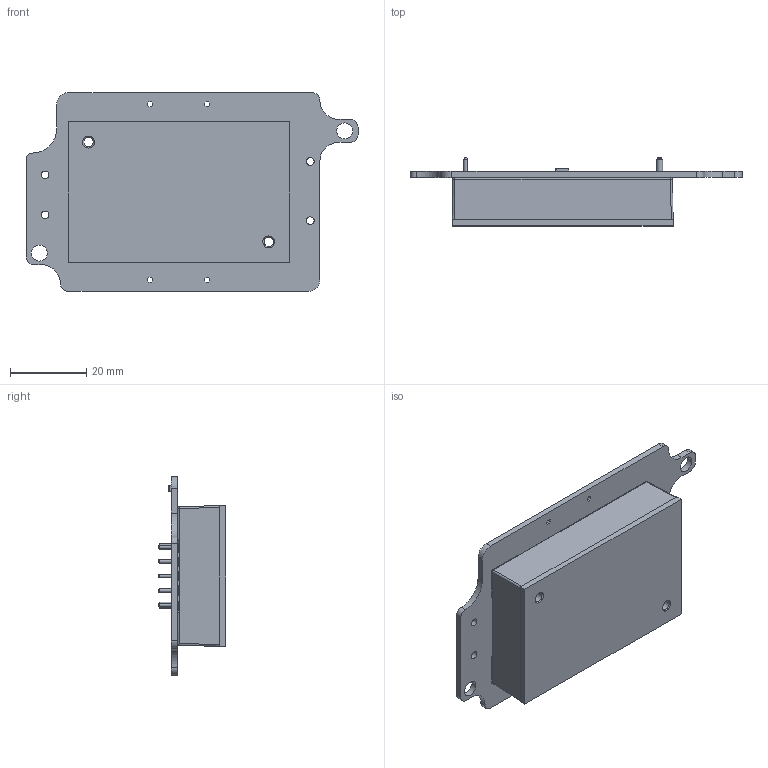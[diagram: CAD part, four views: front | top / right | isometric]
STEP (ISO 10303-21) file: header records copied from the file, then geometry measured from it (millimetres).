
FILE_DESCRIPTION(/* description */ ('','CAx-IF Rec.Pracs.---Representation and Presentation of Product Manufacturing Information (PMI)---4.0---2014-10-13'),/* implementation_level */ '2;1');
FILE_NAME(/* name */ 'C:\Releases\Veronte_BEC\3d_DCDC60W\000 Ensamblaje - hw_DCDC60W_Shrinkwrap_1.stp',/* time_stamp */ '2024-01-11T16:39:37+01:00',/* author */ ('jbs3'),/* organization */ (''),/* preprocessor_version */ 'ST-DEVELOPER v17',/* originating_system */ 'Autodesk Inventor 2018',/* authorisation */ '');
FILE_SCHEMA (('AP242_MANAGED_MODEL_BASED_3D_ENGINEERING_MIM_LF { 1 0 10303 442 1 1 4 }'));
Length unit declared in the file: millimetre
Products named in the file (1): 000 Ensamblaje - hw_DCDC60W_Shrinkwrap_1
Bounding box: 87 x 17.8 x 52 mm (x, y, z)
Volume: 32826.8 mm3; surface area: 15348.2 mm2
Topology: 3 solids, 3 shells, 833 faces, 2312 edges, 1547 vertices
Faces by surface type: plane 743, cylinder 62, cone 26, sphere 2
Full cylindrical faces by diameter (mm): 1 x18, 1.6 x2, 2 x4, 2.5 x2, 3.2 x2, 4.2 x2, 4.6 x2, 5 x2
Entity records: 27441 total; most frequent: CARTESIAN_POINT 4716, ORIENTED_EDGE 4620, DIRECTION 4231, EDGE_CURVE 2310, LINE 2091, VECTOR 2091, VERTEX_POINT 1547, AXIS2_PLACEMENT_3D 1074
